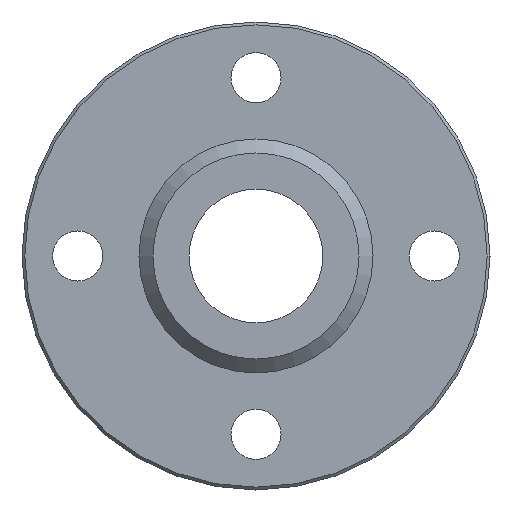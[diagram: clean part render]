
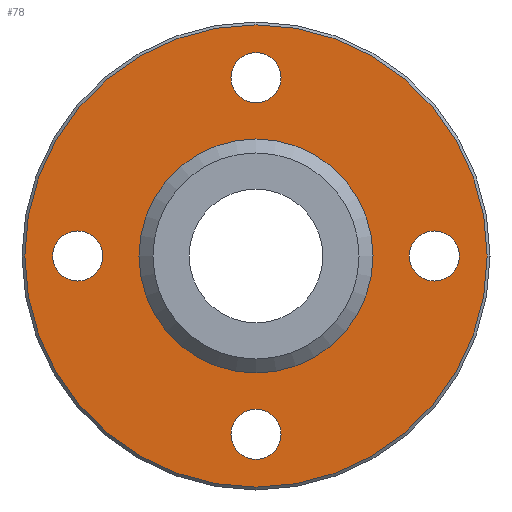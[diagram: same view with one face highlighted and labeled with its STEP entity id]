
A CAD part, left-side view. The second image highlights one B-rep face of the part: STEP entity #78.
In plain terms, the highlighted planar face has unit normal (-1, 0, 0).
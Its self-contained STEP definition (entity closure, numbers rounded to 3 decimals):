
#78=ADVANCED_FACE('',(#106,#107,#108,#109,#110,#111),#112,.F.);
#106=FACE_OUTER_BOUND('',#177,.T.);
#107=FACE_BOUND('',#178,.T.);
#108=FACE_BOUND('',#179,.T.);
#109=FACE_BOUND('',#180,.T.);
#110=FACE_BOUND('',#181,.T.);
#111=FACE_BOUND('',#182,.T.);
#112=PLANE('',#183);
#177=EDGE_LOOP('',(#254));
#178=EDGE_LOOP('',(#255));
#179=EDGE_LOOP('',(#256));
#180=EDGE_LOOP('',(#257));
#181=EDGE_LOOP('',(#258));
#182=EDGE_LOOP('',(#259));
#183=AXIS2_PLACEMENT_3D('',#260,#261,#262);
#254=ORIENTED_EDGE('',*,*,#356,.T.);
#255=ORIENTED_EDGE('',*,*,#357,.T.);
#256=ORIENTED_EDGE('',*,*,#358,.T.);
#257=ORIENTED_EDGE('',*,*,#359,.T.);
#258=ORIENTED_EDGE('',*,*,#355,.T.);
#259=ORIENTED_EDGE('',*,*,#360,.T.);
#260=CARTESIAN_POINT('',(-9.0,20.746,0.0));
#261=DIRECTION('',(1.0,0.0,0.0));
#262=DIRECTION('',(0.0,0.0,-1.0));
#355=EDGE_CURVE('',#383,#383,#384,.T.);
#356=EDGE_CURVE('',#385,#385,#386,.T.);
#357=EDGE_CURVE('',#387,#387,#388,.T.);
#358=EDGE_CURVE('',#389,#389,#390,.T.);
#359=EDGE_CURVE('',#391,#391,#392,.T.);
#360=EDGE_CURVE('',#393,#393,#394,.T.);
#383=VERTEX_POINT('',#433);
#384=CIRCLE('',#434,2.25);
#385=VERTEX_POINT('',#435);
#386=CIRCLE('',#436,20.746);
#387=VERTEX_POINT('',#437);
#388=CIRCLE('',#438,2.25);
#389=VERTEX_POINT('',#439);
#390=CIRCLE('',#440,2.25);
#391=VERTEX_POINT('',#441);
#392=CIRCLE('',#442,2.25);
#393=VERTEX_POINT('',#443);
#394=CIRCLE('',#444,10.5);
#433=CARTESIAN_POINT('',(-9.0,-16.0,-2.25));
#434=AXIS2_PLACEMENT_3D('',#486,#487,#488);
#435=CARTESIAN_POINT('',(-9.0,0.0,20.746));
#436=AXIS2_PLACEMENT_3D('',#489,#490,#491);
#437=CARTESIAN_POINT('',(-9.0,0.0,13.75));
#438=AXIS2_PLACEMENT_3D('',#492,#493,#494);
#439=CARTESIAN_POINT('',(-9.0,16.0,-2.25));
#440=AXIS2_PLACEMENT_3D('',#495,#496,#497);
#441=CARTESIAN_POINT('',(-9.0,0.0,-18.25));
#442=AXIS2_PLACEMENT_3D('',#498,#499,#500);
#443=CARTESIAN_POINT('',(-9.0,0.,-10.5));
#444=AXIS2_PLACEMENT_3D('',#501,#502,#503);
#486=CARTESIAN_POINT('',(-9.0,-16.0,0.0));
#487=DIRECTION('',(1.0,0.0,0.0));
#488=DIRECTION('',(0.0,0.0,-1.0));
#489=CARTESIAN_POINT('',(-9.0,0.0,0.0));
#490=DIRECTION('',(-1.0,0.0,0.0));
#491=DIRECTION('',(0.0,0.0,1.0));
#492=CARTESIAN_POINT('',(-9.0,0.0,16.0));
#493=DIRECTION('',(1.0,0.0,0.0));
#494=DIRECTION('',(0.0,0.0,-1.0));
#495=CARTESIAN_POINT('',(-9.0,16.0,0.0));
#496=DIRECTION('',(1.0,0.0,0.0));
#497=DIRECTION('',(0.0,0.0,-1.0));
#498=CARTESIAN_POINT('',(-9.0,0.0,-16.0));
#499=DIRECTION('',(1.0,0.0,0.0));
#500=DIRECTION('',(0.0,0.0,-1.0));
#501=CARTESIAN_POINT('',(-9.0,0.,0.));
#502=DIRECTION('',(1.0,0.0,0.0));
#503=DIRECTION('',(0.0,0.0,-1.0));
